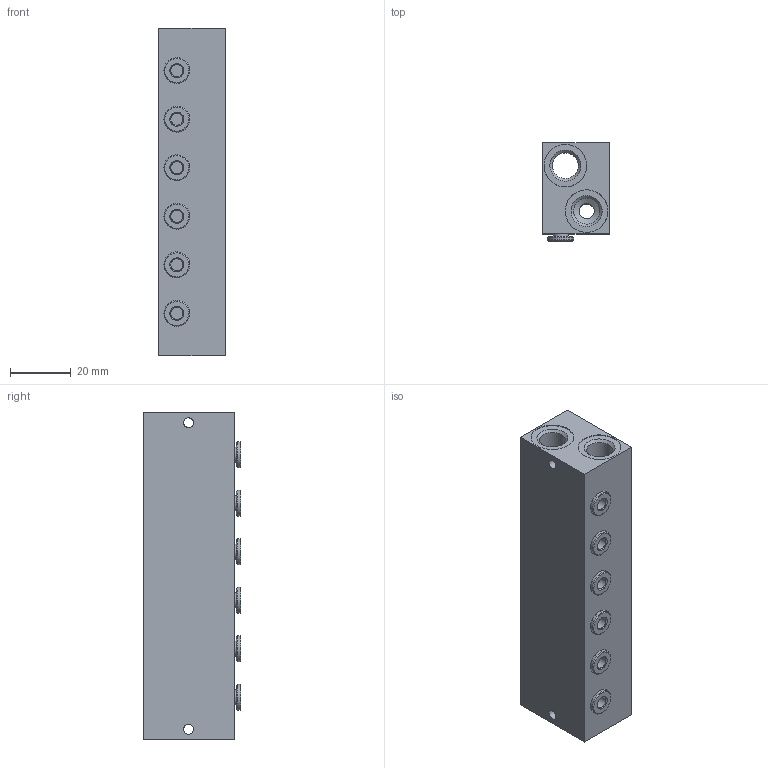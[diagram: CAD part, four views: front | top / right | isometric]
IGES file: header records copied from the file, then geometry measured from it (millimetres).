
Global section: file name: 354_06; native system: Autodesk Inventor 2014; preprocessor: unknown; author: R.Rivoltella; organization: Pneumax S.p.A.; date: 20161003.105214; units: millimetre
Bounding box: 22 x 32.25 x 108 mm (x, y, z)
Volume: 60753.3 mm3; surface area: 19844 mm2
Topology: 1 solids, 1 shells, 120 faces, 344 edges, 250 vertices
Faces by surface type: bspline 120
